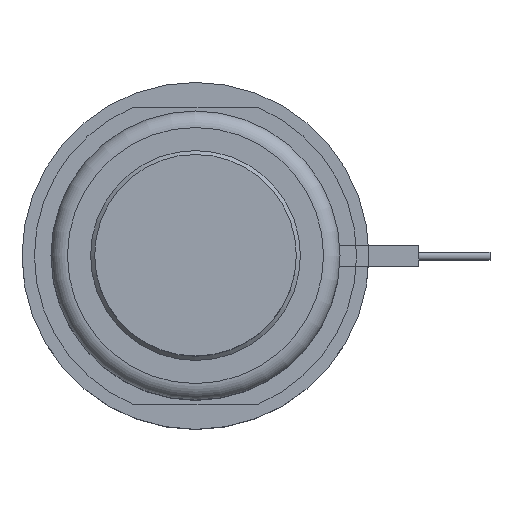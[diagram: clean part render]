
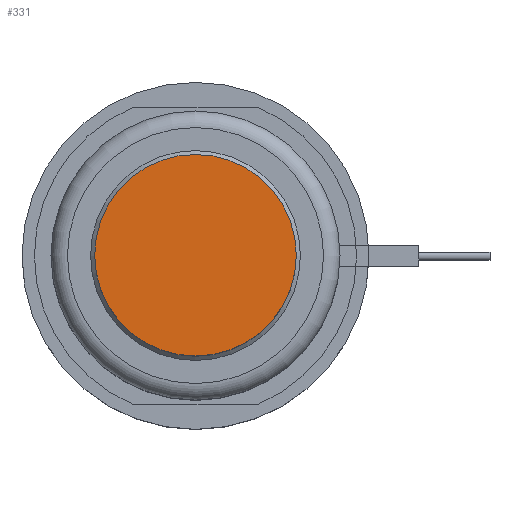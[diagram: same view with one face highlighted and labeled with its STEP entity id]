
A CAD part, top view. The second image highlights one B-rep face of the part: STEP entity #331.
In plain terms, the highlighted planar face has unit normal (0, 0, 1).
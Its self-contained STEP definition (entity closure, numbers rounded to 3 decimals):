
#238=CIRCLE('',#1292,12.2);
#331=ADVANCED_FACE('',(#466),#421,.F.);
#421=PLANE('',#1293);
#466=FACE_OUTER_BOUND('',#537,.T.);
#537=EDGE_LOOP('',(#697));
#697=ORIENTED_EDGE('',*,*,#1057,.F.);
#946=VERTEX_POINT('',#1868);
#1057=EDGE_CURVE('',#946,#946,#238,.T.);
#1292=AXIS2_PLACEMENT_3D('',#1867,#1490,#1491);
#1293=AXIS2_PLACEMENT_3D('',#1869,#1492,#1493);
#1490=DIRECTION('',(0.,0.,-1.));
#1491=DIRECTION('',(-1.,0.,0.));
#1492=DIRECTION('',(0.,0.,-1.));
#1493=DIRECTION('',(-1.,0.,0.));
#1867=CARTESIAN_POINT('',(0.,0.,18.));
#1868=CARTESIAN_POINT('',(-12.2,0.,18.));
#1869=CARTESIAN_POINT('',(0.,0.,18.));
